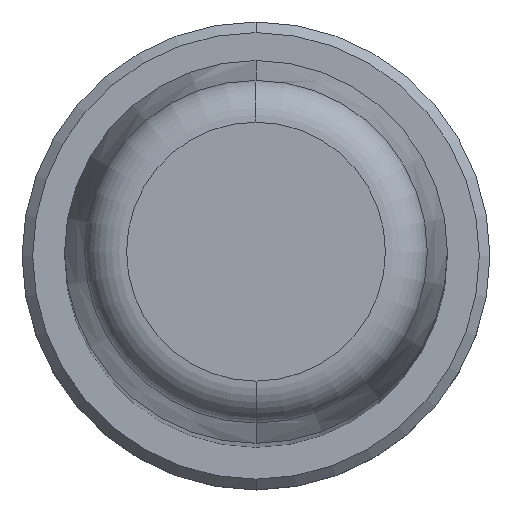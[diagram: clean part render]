
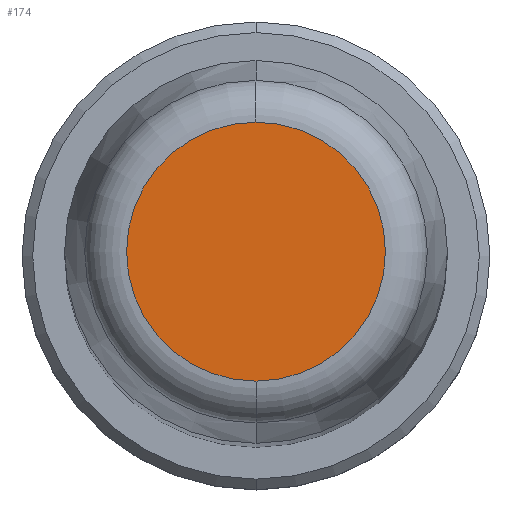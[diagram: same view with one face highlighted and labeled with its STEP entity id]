
A CAD part, top view. The second image highlights one B-rep face of the part: STEP entity #174.
In plain terms, the highlighted planar face has unit normal (0, 0, 1).
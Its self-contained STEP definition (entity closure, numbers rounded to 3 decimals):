
#1=CARTESIAN_POINT('',(0.,0.,120.));
#2=DIRECTION('',(0.,0.,-1.));
#3=DIRECTION('',(0.,-1.,0.));
#4=AXIS2_PLACEMENT_3D('',#1,#2,#3);
#6=CARTESIAN_POINT('',(0.,0.,120.));
#7=DIRECTION('',(0.,0.,-1.));
#8=DIRECTION('',(0.,1.,0.));
#9=AXIS2_PLACEMENT_3D('',#6,#7,#8);
#159=CARTESIAN_POINT('',(0.,-6.088,120.));
#160=CARTESIAN_POINT('',(0.,6.088,120.));
#161=VERTEX_POINT('',#159);
#162=VERTEX_POINT('',#160);
#163=CARTESIAN_POINT('',(0.,0.,120.));
#164=DIRECTION('',(0.,0.,1.));
#165=DIRECTION('',(0.,-1.,0.));
#166=AXIS2_PLACEMENT_3D('',#163,#164,#165);
#167=PLANE('',#166);
#169=ORIENTED_EDGE('',*,*,#168,.T.);
#171=ORIENTED_EDGE('',*,*,#170,.T.);
#172=EDGE_LOOP('',(#169,#171));
#173=FACE_OUTER_BOUND('',#172,.F.);
#174=ADVANCED_FACE('',(#173),#167,.T.);
#5=CIRCLE('',#4,6.088);
#10=CIRCLE('',#9,6.088);
#168=EDGE_CURVE('',#161,#162,#5,.T.);
#170=EDGE_CURVE('',#162,#161,#10,.T.);
